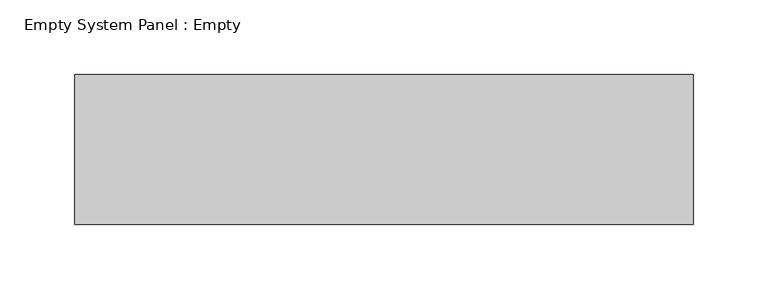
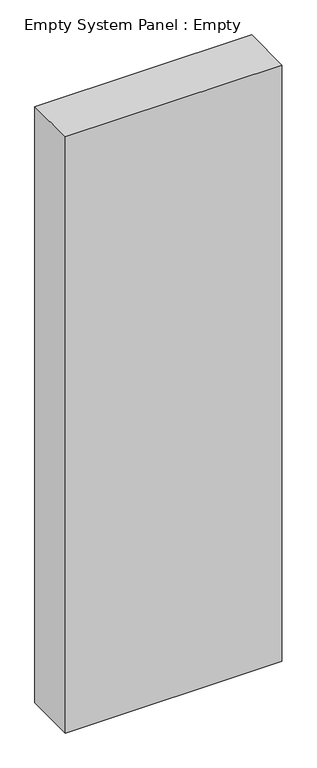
"""IFC4 building model written with IfcOpenShell, lengths in millimetres: plate geometry, Empty System Panel : Empty."""

from ifc_helpers import new_model, si_unit, origin, origin_with_axes, place, context, project, spatial, polyline, outline, extrude, source, transform, mapped, element, save


def empty_system_panel_empty_985d2cdc(model_context):
    return source(origin(), model_context, "Body", "SweptSolid", [
        extrude(outline(polyline([(206.25, -50.0), (-206.25, -50.0), (-206.25, 50.0), (206.25, 50.0), (206.25, -50.0)])), origin_with_axes(), (0.0, 0.0, 1.0), 1200.0),
    ])


if __name__ == "__main__":
    model = new_model("IFC4")
    model_context = context("Model", 3, world=origin())
    ifc_project = project(units=[si_unit("LENGTHUNIT", "METRE", prefix="MILLI")], contexts=[model_context])
    site = spatial("IfcSite", under=ifc_project)
    building = spatial("IfcBuilding", under=site)
    placement = place(None, origin())
    empty_system_panel_empty_shape = empty_system_panel_empty_985d2cdc(model_context)
    element("IfcPlate", 1, ObjectType="Empty System Panel : Empty", at=placement, inside=building, context=model_context, shape_type="MappedRepresentation", body=[
        mapped(empty_system_panel_empty_shape, transform((0.0, 0.0, 0.0), x_axis=(1.0, 0.0, 0.0), y_axis=(0.0, 1.0, 0.0), z_axis=(0.0, 0.0, 1.0))),
    ])
    save(model, "model.ifc")
